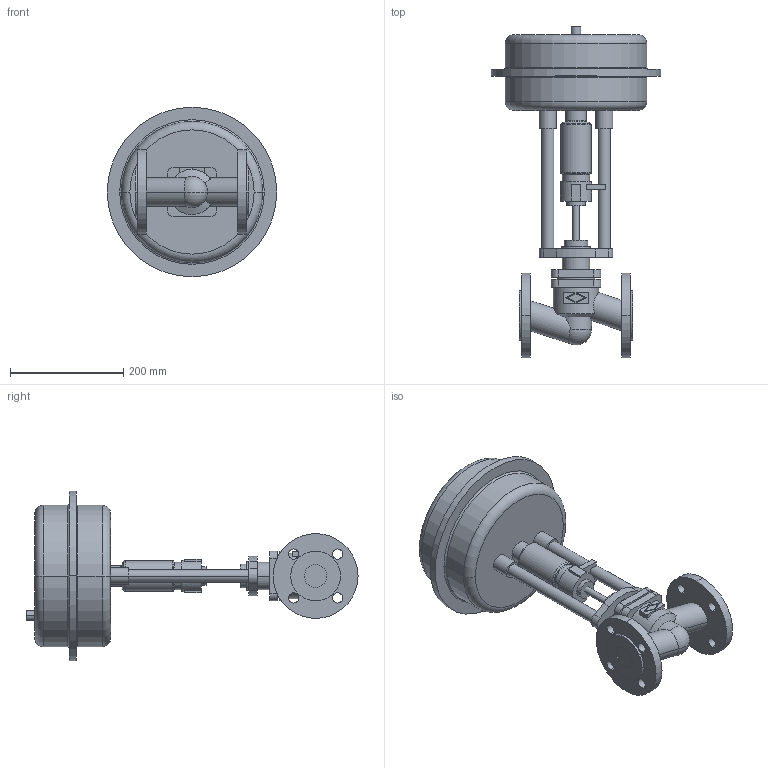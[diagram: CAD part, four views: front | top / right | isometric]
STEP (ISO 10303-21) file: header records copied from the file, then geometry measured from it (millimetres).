
FILE_DESCRIPTION(('OneSpaceDesigner STEP Export'),'2;1');
FILE_NAME('c000001478.stp','2005-02-15T 9:27:52',(''),(''),'OneSpace Designer STEP processor (Jan. 2003) for AP203(Solid Model)','OneSpace Designer 12.01D 09-Jul-2004 (C) CoCreate Software GmbH','');
FILE_SCHEMA(('CONFIG_CONTROL_DESIGN'));
Length unit declared in the file: millimetre
Products named in the file (2): 1; 2
Bounding box: 300 x 587.6 x 300 mm (x, y, z)
Volume: 8857885.4 mm3; surface area: 477947.7 mm2
Topology: 2 solids, 2 shells, 181 faces, 436 edges, 284 vertices
Faces by surface type: cylinder 84, plane 73, torus 16, cone 6, sphere 2
Entity records: 5097 total; most frequent: CARTESIAN_POINT 1036, ORIENTED_EDGE 868, DIRECTION 727, EDGE_CURVE 434, VERTEX_POINT 284, AXIS2_PLACEMENT_3D 264, EDGE_LOOP 224, VECTOR 199
